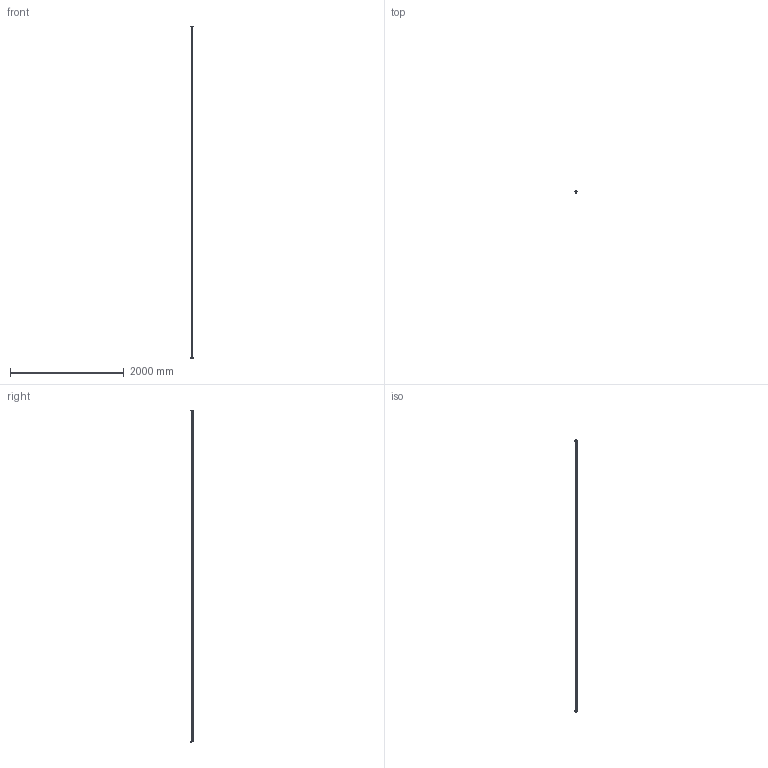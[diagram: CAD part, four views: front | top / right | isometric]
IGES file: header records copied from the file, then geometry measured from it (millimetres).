
Start section: 3D InterOp IGES (v. 2019 1.0.2), Spatial Corp. Copyright (c) 1999-2017.
Global section: file name: R1605.3_size30.igs; native system: Spatial Corp.; preprocessor: 3D InterOp GENERIC/IGES 3.0; author: Noname; organization: Noname; date: 20220629.163432; units: millimetre
Bounding box: 36.55 x 37.05 x 5840.3 mm (x, y, z)
Surface area: 1077963.4 mm2 (no closed solid volume)
Topology: 0 solids, 0 shells, 707 faces, 3532 edges, 3528 vertices
Faces by surface type: revolution 432, extrusion 275
